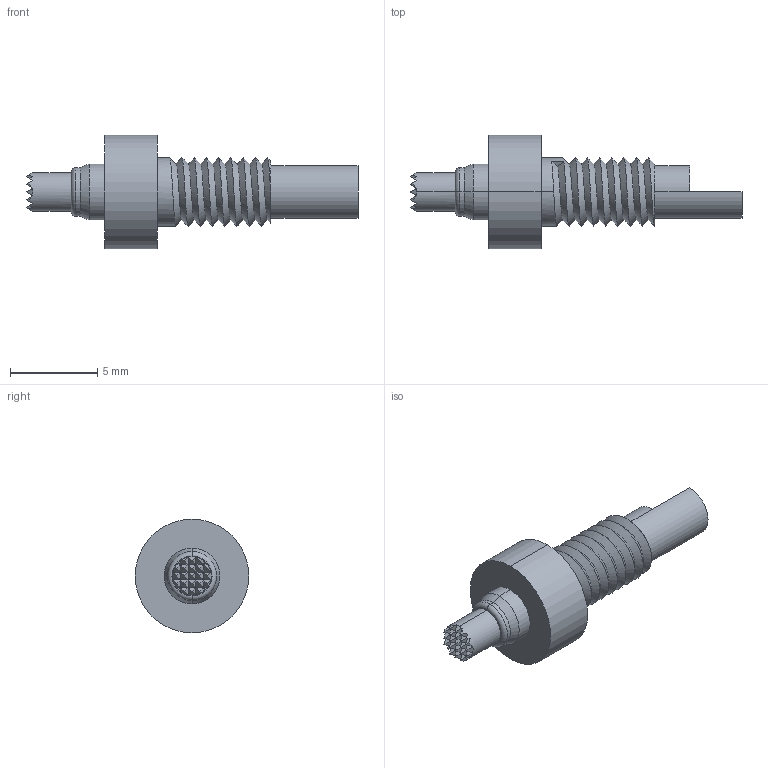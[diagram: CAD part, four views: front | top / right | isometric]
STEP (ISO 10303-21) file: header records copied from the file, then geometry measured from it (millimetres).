
FILE_DESCRIPTION((''),'2;1');
FILE_NAME('PRT0012','2023-06-02T11:13:05',('USER'),(''),'CREO PARAMETRIC BY PTC INC, 2020154','CREO PARAMETRIC BY PTC INC, 2020154','');
FILE_SCHEMA(('CONFIG_CONTROL_DESIGN'));
Length unit declared in the file: millimetre
Products named in the file (1): PRT0012
Bounding box: 19 x 6.5 x 6.5 mm (x, y, z)
Volume: 201 mm3; surface area: 314.7 mm2
Topology: 1 solids, 1 shells, 127 faces, 265 edges, 142 vertices
Faces by surface type: plane 101, cylinder 14, bspline 6, cone 4, torus 2
Entity records: 4593 total; most frequent: CARTESIAN_POINT 2068, ORIENTED_EDGE 526, DIRECTION 459, EDGE_CURVE 263, VECTOR 161, LINE 161, AXIS2_PLACEMENT_3D 149, VERTEX_POINT 142
